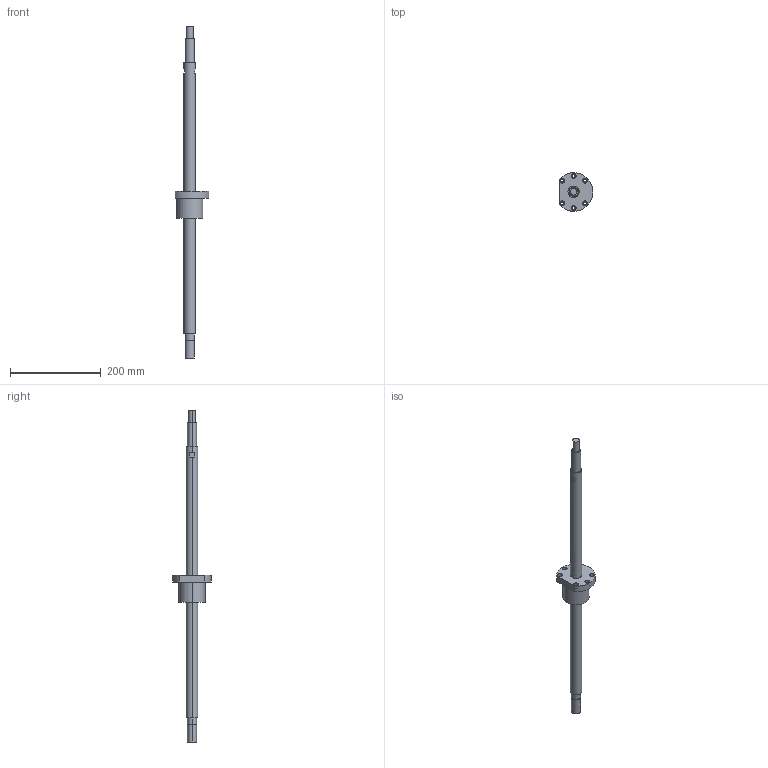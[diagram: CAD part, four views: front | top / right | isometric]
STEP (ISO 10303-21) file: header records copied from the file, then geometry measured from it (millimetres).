
FILE_DESCRIPTION((''),'2;1');
FILE_NAME('R25-10K4-FSC-570-733','2008-04-03T',('wcwu'),(''),'PRO/ENGINEER BY PARAMETRIC TECHNOLOGY CORPORATION, 2005070','PRO/ENGINEER BY PARAMETRIC TECHNOLOGY CORPORATION, 2005070','');
FILE_SCHEMA(('CONFIG_CONTROL_DESIGN'));
Length unit declared in the file: millimetre
Products named in the file (1): R25-10K4-FSC-570-733
Bounding box: 74.5 x 84.99 x 733 mm (x, y, z)
Volume: 495386.4 mm3; surface area: 75106.4 mm2
Topology: 1 solids, 1 shells, 64 faces, 144 edges, 96 vertices
Faces by surface type: cylinder 41, plane 23
Entity records: 1900 total; most frequent: DIRECTION 362, CARTESIAN_POINT 304, ORIENTED_EDGE 288, AXIS2_PLACEMENT_3D 154, EDGE_CURVE 144, VERTEX_POINT 96, EDGE_LOOP 90, CIRCLE 90
